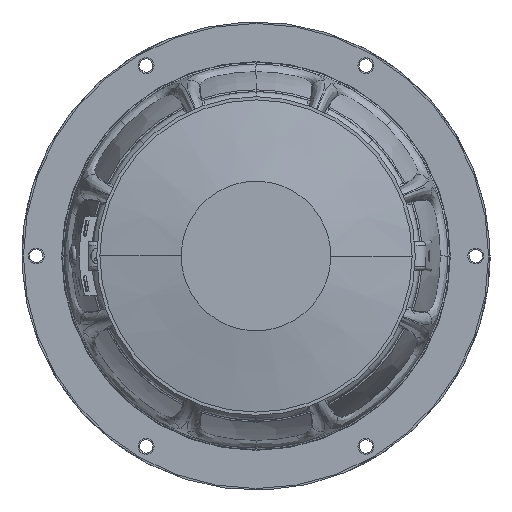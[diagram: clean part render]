
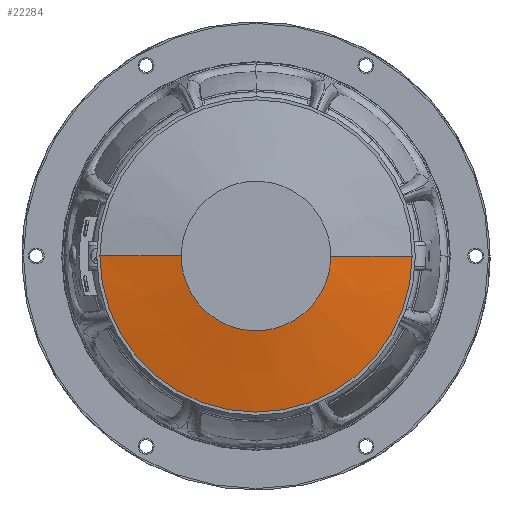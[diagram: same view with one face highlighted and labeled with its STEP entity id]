
A CAD part, front view. The second image highlights one B-rep face of the part: STEP entity #22284.
In plain terms, the highlighted conical face has half-angle 79.992 degrees and reference radius 36.25 mm.
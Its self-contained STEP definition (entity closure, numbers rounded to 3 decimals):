
#10728 = AXIS2_PLACEMENT_3D ( 'NONE', #93549, #109807, #180671 ) ;
#11099 = VECTOR ( 'NONE', #14036, 1000. ) ;
#14036 = DIRECTION ( 'NONE',  ( -0.985, 0.174, 0.002 ) ) ;
#18163 = VECTOR ( 'NONE', #147832, 1000. ) ;
#22284 = ADVANCED_FACE ( 'NONE', ( #57696 ), #78234, .T. ) ;
#36962 = CARTESIAN_POINT ( 'NONE',  ( 23.5, 0., -0.058 ) ) ;
#48792 = CARTESIAN_POINT ( 'NONE',  ( -36.25, 2.25, 0.089 ) ) ;
#55417 = ORIENTED_EDGE ( 'NONE', *, *, #127464, .T. ) ;
#57696 = FACE_OUTER_BOUND ( 'NONE', #62260, .T. ) ;
#62260 = EDGE_LOOP ( 'NONE', ( #201518, #55417, #188819, #97085 ) ) ;
#69159 = VERTEX_POINT ( 'NONE', #213072 ) ;
#75771 = EDGE_CURVE ( 'NONE', #196284, #166101, #112833, .T. ) ;
#76259 = CARTESIAN_POINT ( 'NONE',  ( 0., 2.25, 0. ) ) ;
#78234 = CONICAL_SURFACE ( 'NONE', #144841, 36.25, 1.396 ) ;
#79790 = CARTESIAN_POINT ( 'NONE',  ( -23.5, 0., 0.058 ) ) ;
#93549 = CARTESIAN_POINT ( 'NONE',  ( 0., 4.5, 0. ) ) ;
#97085 = ORIENTED_EDGE ( 'NONE', *, *, #142054, .F. ) ;
#109807 = DIRECTION ( 'NONE',  ( 0., 1., 0. ) ) ;
#112242 = DIRECTION ( 'NONE',  ( 0., 1., 0. ) ) ;
#112833 = CIRCLE ( 'NONE', #205588, 23.5 ) ;
#118332 = DIRECTION ( 'NONE',  ( 0., 1., 0. ) ) ;
#121566 = CARTESIAN_POINT ( 'NONE',  ( 49., 4.5, -0.12 ) ) ;
#127464 = EDGE_CURVE ( 'NONE', #166101, #69159, #170765, .T. ) ;
#128136 = CARTESIAN_POINT ( 'NONE',  ( 36.25, 2.25, -0.089 ) ) ;
#129280 = LINE ( 'NONE', #128136, #18163 ) ;
#134900 = VERTEX_POINT ( 'NONE', #121566 ) ;
#136871 = CARTESIAN_POINT ( 'NONE',  ( 0., 0., 0. ) ) ;
#142054 = EDGE_CURVE ( 'NONE', #196284, #134900, #129280, .T. ) ;
#144841 = AXIS2_PLACEMENT_3D ( 'NONE', #76259, #112242, #147088 ) ;
#146760 = EDGE_CURVE ( 'NONE', #134900, #69159, #181202, .T. ) ;
#147088 = DIRECTION ( 'NONE',  ( 1., 0., -0.002 ) ) ;
#147832 = DIRECTION ( 'NONE',  ( 0.985, 0.174, -0.002 ) ) ;
#166101 = VERTEX_POINT ( 'NONE', #79790 ) ;
#170765 = LINE ( 'NONE', #48792, #11099 ) ;
#180671 = DIRECTION ( 'NONE',  ( 1., 0., -0.002 ) ) ;
#181202 = CIRCLE ( 'NONE', #10728, 49. ) ;
#188819 = ORIENTED_EDGE ( 'NONE', *, *, #146760, .F. ) ;
#196284 = VERTEX_POINT ( 'NONE', #36962 ) ;
#201518 = ORIENTED_EDGE ( 'NONE', *, *, #75771, .T. ) ;
#205588 = AXIS2_PLACEMENT_3D ( 'NONE', #136871, #118332, #227428 ) ;
#213072 = CARTESIAN_POINT ( 'NONE',  ( -49., 4.5, 0.12 ) ) ;
#227428 = DIRECTION ( 'NONE',  ( 1., 0., -0.002 ) ) ;
